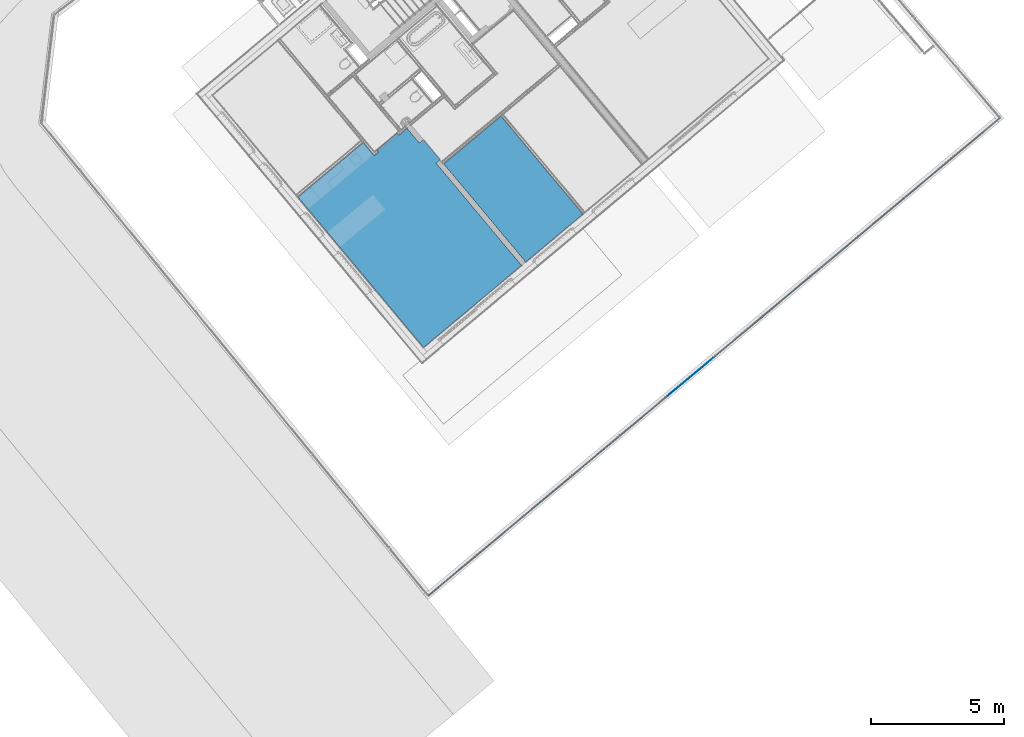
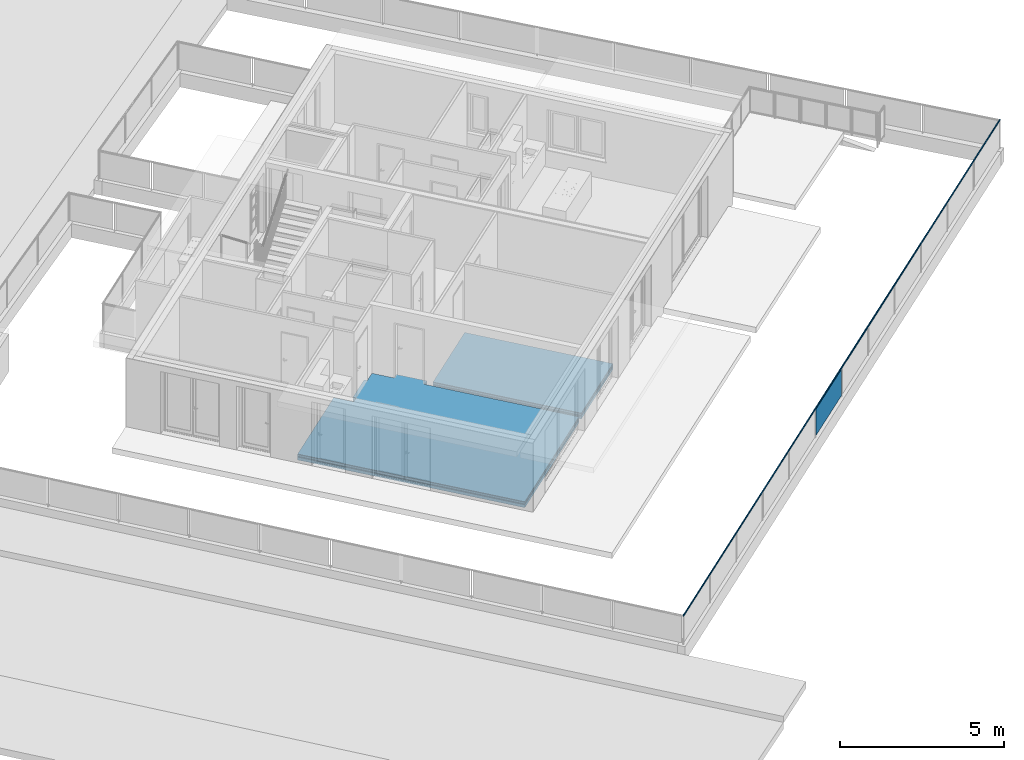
# One storey, part 24 of 75: 10 building element parts, 3 elements without a shape of their own.
"""IFC4 building model written with IfcOpenShell, lengths in metres."""

from ifc_helpers import new_model, entity, si_unit, converted_unit, derived_unit, direction, frame, origin_with_axes, place, context, subcontext, project, spatial, polygons, material, type_object, element, aggregate, save


model = new_model("IFC4")

# Units and contexts
model_context = context("Model", 3, precision=1e-05, world=origin_with_axes(), true_north=direction((0.0, 1.0)))
body_context = subcontext(model_context, "Body", "Model", "MODEL_VIEW")
ifc_project = project(units=[si_unit("LENGTHUNIT", "METRE"), si_unit("AREAUNIT", "SQUARE_METRE"), si_unit("VOLUMEUNIT", "CUBIC_METRE"), converted_unit("PLANEANGLEUNIT", "DEGREE", entity("IfcPlaneAngleMeasure", 0.0174532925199), si_unit("PLANEANGLEUNIT", "RADIAN"), dimensions=[0, 0, 0, 0, 0, 0, 0]), converted_unit("TIMEUNIT", "Year", entity("IfcTimeMeasure", 31556926.0), si_unit("TIMEUNIT", "SECOND"), dimensions=[0, 0, 1, 0, 0, 0, 0]), si_unit("MASSUNIT", "GRAM", prefix="KILO"), si_unit("THERMODYNAMICTEMPERATUREUNIT", "DEGREE_CELSIUS"), si_unit("LUMINOUSINTENSITYUNIT", "LUMEN"), si_unit("ENERGYUNIT", "JOULE", prefix="MEGA"), derived_unit("THERMALCONDUCTANCEUNIT", [(si_unit("POWERUNIT", "WATT"), 1), (si_unit("LENGTHUNIT", "METRE"), -1), (si_unit("THERMODYNAMICTEMPERATUREUNIT", "KELVIN"), -1)]), derived_unit("SPECIFICHEATCAPACITYUNIT", [(si_unit("ENERGYUNIT", "JOULE"), 1), (si_unit("MASSUNIT", "GRAM", prefix="KILO"), -1), (si_unit("THERMODYNAMICTEMPERATUREUNIT", "KELVIN"), -1)]), derived_unit("MASSDENSITYUNIT", [(si_unit("MASSUNIT", "GRAM", prefix="KILO"), 1), (si_unit("VOLUMEUNIT", "CUBIC_METRE"), -1)])], contexts=[model_context])

# Site, building, storey
site_placement = place(None, frame((-0.00153261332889, -0.00661245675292, 0.0), z_axis=(0.0, 0.0, 1.0), x_axis=(1.0, 0.0, 0.0)))
site = spatial("IfcSite", under=ifc_project, at=site_placement, Name="Gelände", CompositionType="ELEMENT")
building_placement = place(site_placement, origin_with_axes())
building = spatial("IfcBuilding", under=site, at=building_placement, Name="Gebäude", CompositionType="ELEMENT")
storey_placement = place(building_placement, frame((0.0, 0.0, -0.22), z_axis=(0.0, 0.0, 1.0), x_axis=(1.0, 0.0, 0.0)))
storey = spatial("IfcBuildingStorey", under=building, at=storey_placement, Name="EG", CompositionType="ELEMENT", Elevation=-0.22)

# Railing, building element parts
railing_type = type_object("IfcRailingType", Name="Geländerart", PredefinedType="NOTDEFINED")
railing_placement = place(storey_placement, frame((-12.1608341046, 23.557810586, 0.523948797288), z_axis=(0.0, 0.0, 1.0), x_axis=(1.0, 0.0, 0.0)))
railing = element("IfcRailing", 1, at=railing_placement, inside=storey, type_object=railing_type, Name="Geländer - 001", PredefinedType="NOTDEFINED")
ifc_material_1 = material(Name="Aluminium")
building_element_part_1_placement = place(railing_placement, origin_with_axes())
building_element_part_1 = element("IfcBuildingElementPart", 2, at=building_element_part_1_placement, material=ifc_material_1, Name="Aluminium", PredefinedType="NOTDEFINED", context=body_context, shape_type="Tessellation", body=[
    polygons([(12.1743936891, -23.4240304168, 1.07636363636), (12.1743622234, -23.4243631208, 1.07634109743), (33.6814073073, -5.45010254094, 1.07634109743), (33.6810736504, -5.45007498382, 1.07636363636), (12.1743936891, -23.4240304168, 1.07818181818), (12.1744019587, -23.4239429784, 1.07820551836), (12.1748432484, -23.4192769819, 1.0792391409), (12.1752909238, -23.4145434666, 1.07983921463), (12.1757415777, -23.4097784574, 1.08000117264), (12.1757501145, -23.4096881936, 1.08), (12.1757586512, -23.4095979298, 1.08000117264), (12.1762093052, -23.4048329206, 1.07983921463), (12.1766569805, -23.4000994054, 1.0792391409), (12.1770982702, -23.3954334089, 1.07820551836), (12.1771065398, -23.3953459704, 1.07818181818), (12.1771065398, -23.3953459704, 1.07636363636), (12.1771380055, -23.3950132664, 1.07634109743), (12.1772545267, -23.3937812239, 1.0761115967), (12.17736571, -23.3926056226, 1.07565956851), (12.1774681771, -23.3915221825, 1.07499874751), (12.1775588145, -23.3905638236, 1.0741492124), (12.1776348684, -23.3897596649, 1.07313677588), (12.1776940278, -23.3891341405, 1.07199220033), (12.1777344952, -23.3887062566, 1.07075026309), (12.177755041, -23.3884890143, 1.06944869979), (12.177755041, -23.3884890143, 1.06812705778), (12.1777344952, -23.3887062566, 1.06682549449), (12.1776940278, -23.3891341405, 1.06558355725), (12.1776348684, -23.3897596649, 1.06443898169), (12.1775588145, -23.3905638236, 1.06342654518), (12.1774681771, -23.3915221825, 1.06257701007), (12.17736571, -23.3926056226, 1.06191618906), (12.1772545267, -23.3937812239, 1.06146416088), (12.1771380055, -23.3950132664, 1.06123466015), (12.1771065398, -23.3953459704, 1.06121212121), (12.1771065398, -23.3953459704, 1.05818181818), (12.1770852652, -23.3955709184, 1.05810011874), (12.176986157, -23.3966188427, 1.05758389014), (12.1768965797, -23.3975659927, 1.05688326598), (12.1768192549, -23.3983835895, 1.05601953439), (12.1767565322, -23.3990467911, 1.05501893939), (12.1767103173, -23.3995354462, 1.05391188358), (12.1766820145, -23.3998347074, 1.05273200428), (12.1766724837, -23.3999354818, 1.05151515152), (12.1766820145, -23.3998347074, 1.05029829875), (12.1767103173, -23.3995354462, 1.04911841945), (12.1767565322, -23.3990467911, 1.04801136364), (12.1768192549, -23.3983835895, 1.04701076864), (12.1768965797, -23.3975659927, 1.04614703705), (12.176986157, -23.3966188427, 1.04544641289), (12.1770852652, -23.3955709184, 1.04493018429), (12.1771065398, -23.3953459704, 1.04484848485), (12.1771065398, -23.3953459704, 1.04), (12.1743936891, -23.4240304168, 1.04), (12.1743936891, -23.4240304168, 1.04484848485), (12.1744149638, -23.4238054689, 1.04493018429), (12.1745140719, -23.4227575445, 1.04544641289), (12.1746036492, -23.4218103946, 1.04614703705), (12.174680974, -23.4209927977, 1.04701076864), (12.1747436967, -23.4203295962, 1.04801136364), (12.1747899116, -23.419840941, 1.04911841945), (12.1748182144, -23.4195416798, 1.05029829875), (12.1748277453, -23.4194409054, 1.05151515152), (12.1748182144, -23.4195416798, 1.05273200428), (12.1747899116, -23.419840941, 1.05391188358), (12.1747436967, -23.4203295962, 1.05501893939), (12.174680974, -23.4209927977, 1.05601953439), (12.1746036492, -23.4218103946, 1.05688326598), (12.1745140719, -23.4227575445, 1.05758389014), (12.1744149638, -23.4238054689, 1.05810011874), (12.1743936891, -23.4240304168, 1.05818181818), (12.1743936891, -23.4240304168, 1.06121212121), (12.1743622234, -23.4243631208, 1.06123466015), (12.1742457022, -23.4255951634, 1.06146416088), (12.1741345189, -23.4267707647, 1.06191618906), (12.1740320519, -23.4278542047, 1.06257701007), (12.1739414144, -23.4288125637, 1.06342654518), (12.1738653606, -23.4296167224, 1.06443898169), (12.1738062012, -23.4302422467, 1.06558355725), (12.1737657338, -23.4306701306, 1.06682549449), (12.1737451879, -23.430887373, 1.06812705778), (12.1737451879, -23.430887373, 1.06944869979), (12.1737657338, -23.4306701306, 1.07075026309), (12.1738062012, -23.4302422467, 1.07199220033), (12.1738653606, -23.4296167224, 1.07313677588), (12.1739414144, -23.4288125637, 1.0741492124), (12.1740320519, -23.4278542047, 1.07499874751), (12.1741345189, -23.4267707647, 1.07565956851), (12.1742457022, -23.4255951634, 1.0761115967), (33.6826428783, -5.45020458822, 1.0761115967), (33.6838218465, -5.4503019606, 1.07565956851), (33.6849083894, -5.45039169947, 1.07499874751), (33.6858694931, -5.45047107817, 1.0741492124), (33.6866759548, -5.4505376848, 1.07313677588), (33.6873032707, -5.45058949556, 1.07199220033), (33.68773238, -5.45062493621, 1.07075026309), (33.6879502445, -5.4506429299, 1.06944869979), (33.6879502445, -5.4506429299, 1.06812705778), (33.68773238, -5.45062493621, 1.06682549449), (33.6873032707, -5.45058949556, 1.06558355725), (33.6866759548, -5.4505376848, 1.06443898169), (33.6858694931, -5.45047107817, 1.06342654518), (33.6849083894, -5.45039169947, 1.06257701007), (33.6838218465, -5.4503019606, 1.06191618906), (33.6826428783, -5.45020458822, 1.06146416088), (33.6814073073, -5.45010254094, 1.06123466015), (33.6810736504, -5.45007498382, 1.06121212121), (33.6810736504, -5.45007498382, 1.05818181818), (33.6808480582, -5.4500563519, 1.05810011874), (33.6797971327, -5.44996955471, 1.05758389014), (33.6788472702, -5.44989110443, 1.05688326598), (33.6780273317, -5.44982338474, 1.05601953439), (33.6773622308, -5.44976845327, 1.05501893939), (33.6768721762, -5.44972797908, 1.05391188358), (33.6765720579, -5.44970319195, 1.05273200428), (33.6764709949, -5.44969484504, 1.05151515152), (33.6765720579, -5.44970319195, 1.05029829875), (33.6768721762, -5.44972797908, 1.04911841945), (33.6773622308, -5.44976845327, 1.04801136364), (33.6780273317, -5.44982338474, 1.04701076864), (33.6788472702, -5.44989110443, 1.04614703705), (33.6797971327, -5.44996955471, 1.04544641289), (33.6808480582, -5.4500563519, 1.04493018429), (33.6810736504, -5.45007498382, 1.04484848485), (33.6810736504, -5.45007498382, 1.04), (33.6523070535, -5.4476991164, 1.04), (33.6523070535, -5.4476991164, 1.04484848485), (33.6525326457, -5.44771774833, 1.04493018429), (33.6535835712, -5.44780454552, 1.04544641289), (33.6545334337, -5.44788299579, 1.04614703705), (33.6553533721, -5.44795071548, 1.04701076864), (33.656018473, -5.44800564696, 1.04801136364), (33.6565085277, -5.44804612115, 1.04911841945), (33.656808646, -5.44807090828, 1.05029829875), (33.656909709, -5.44807925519, 1.05151515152), (33.656808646, -5.44807090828, 1.05273200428), (33.6565085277, -5.44804612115, 1.05391188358), (33.656018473, -5.44800564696, 1.05501893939), (33.6553533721, -5.44795071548, 1.05601953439), (33.6545334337, -5.44788299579, 1.05688326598), (33.6535835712, -5.44780454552, 1.05758389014), (33.6525326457, -5.44771774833, 1.05810011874), (33.6523070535, -5.4476991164, 1.05818181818), (33.6523070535, -5.4476991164, 1.06121212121), (33.6519733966, -5.44767155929, 1.06123466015), (33.6507378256, -5.44756951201, 1.06146416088), (33.6495588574, -5.44747213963, 1.06191618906), (33.6484723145, -5.44738240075, 1.06257701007), (33.6475112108, -5.44730302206, 1.06342654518), (33.6467047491, -5.44723641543, 1.06443898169), (33.6460774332, -5.44718460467, 1.06558355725), (33.6456483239, -5.44714916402, 1.06682549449), (33.6454304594, -5.44713117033, 1.06812705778), (33.6454304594, -5.44713117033, 1.06944869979), (33.6456483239, -5.44714916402, 1.07075026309), (33.6460774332, -5.44718460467, 1.07199220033), (33.6467047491, -5.44723641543, 1.07313677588), (33.6475112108, -5.44730302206, 1.0741492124), (33.6484723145, -5.44738240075, 1.07499874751), (33.6495588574, -5.44747213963, 1.07565956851), (33.6507378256, -5.44756951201, 1.0761115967), (33.6519733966, -5.44767155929, 1.07634109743), (33.6523070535, -5.4476991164, 1.07636363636), (33.6523070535, -5.4476991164, 1.07818181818), (33.6523947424, -5.44770635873, 1.07820551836), (33.657074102, -5.4480928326, 1.0792391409), (33.6618211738, -5.4484848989, 1.07983921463), (33.6665998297, -5.44887957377, 1.08000117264), (33.6666903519, -5.44888705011, 1.08), (33.6667808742, -5.44889452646, 1.08000117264), (33.6715595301, -5.44928920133, 1.07983921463), (33.6763066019, -5.44968126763, 1.0792391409), (33.6809859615, -5.45006774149, 1.07820551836), (33.6810736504, -5.45007498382, 1.07818181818)], [[[1, 2, 3, 4]], [[1, 5, 6, 7, 8, 9, 10, 11, 12, 13, 14, 15, 16, 17, 18, 19, 20, 21, 22, 23, 24, 25, 26, 27, 28, 29, 30, 31, 32, 33, 34, 35, 36, 37, 38, 39, 40, 41, 42, 43, 44, 45, 46, 47, 48, 49, 50, 51, 52, 53, 54, 55, 56, 57, 58, 59, 60, 61, 62, 63, 64, 65, 66, 67, 68, 69, 70, 71, 72, 73, 74, 75, 76, 77, 78, 79, 80, 81, 82, 83, 84, 85, 86, 87, 88, 89, 2]], [[2, 89, 90, 3]], [[4, 3, 90, 91, 92, 93, 94, 95, 96, 97, 98, 99, 100, 101, 102, 103, 104, 105, 106, 107, 108, 109, 110, 111, 112, 113, 114, 115, 116, 117, 118, 119, 120, 121, 122, 123, 124, 125, 126, 127, 128, 129, 130, 131, 132, 133, 134, 135, 136, 137, 138, 139, 140, 141, 142, 143, 144, 145, 146, 147, 148, 149, 150, 151, 152, 153, 154, 155, 156, 157, 158, 159, 160, 161, 162, 163, 164, 165, 166, 167, 168, 169, 170, 171, 172, 173, 174]], [[5, 1, 4, 174]], [[6, 5, 174, 173]], [[7, 6, 173, 172]], [[8, 7, 172, 171]], [[9, 8, 171, 170]], [[10, 9, 170, 169]], [[11, 10, 169, 168]], [[12, 11, 168, 167]], [[13, 12, 167, 166]], [[14, 13, 166, 165]], [[15, 14, 165, 164]], [[16, 15, 164, 163]], [[17, 16, 163, 162]], [[18, 17, 162, 161]], [[19, 18, 161, 160]], [[20, 19, 160, 159]], [[21, 20, 159, 158]], [[22, 21, 158, 157]], [[23, 22, 157, 156]], [[24, 23, 156, 155]], [[25, 24, 155, 154]], [[26, 25, 154, 153]], [[27, 26, 153, 152]], [[28, 27, 152, 151]], [[29, 28, 151, 150]], [[30, 29, 150, 149]], [[31, 30, 149, 148]], [[32, 31, 148, 147]], [[33, 32, 147, 146]], [[34, 33, 146, 145]], [[35, 34, 145, 144]], [[36, 35, 144, 143]], [[37, 36, 143, 142]], [[38, 37, 142, 141]], [[39, 38, 141, 140]], [[40, 39, 140, 139]], [[41, 40, 139, 138]], [[42, 41, 138, 137]], [[43, 42, 137, 136]], [[44, 43, 136, 135]], [[45, 44, 135, 134]], [[46, 45, 134, 133]], [[47, 46, 133, 132]], [[48, 47, 132, 131]], [[49, 48, 131, 130]], [[50, 49, 130, 129]], [[51, 50, 129, 128]], [[52, 51, 128, 127]], [[53, 52, 127, 126]], [[54, 53, 126, 125]], [[55, 54, 125, 124]], [[56, 55, 124, 123]], [[57, 56, 123, 122]], [[58, 57, 122, 121]], [[59, 58, 121, 120]], [[60, 59, 120, 119]], [[61, 60, 119, 118]], [[62, 61, 118, 117]], [[63, 62, 117, 116]], [[64, 63, 116, 115]], [[65, 64, 115, 114]], [[66, 65, 114, 113]], [[67, 66, 113, 112]], [[68, 67, 112, 111]], [[69, 68, 111, 110]], [[70, 69, 110, 109]], [[71, 70, 109, 108]], [[72, 71, 108, 107]], [[73, 72, 107, 106]], [[74, 73, 106, 105]], [[75, 74, 105, 104]], [[76, 75, 104, 103]], [[77, 76, 103, 102]], [[78, 77, 102, 101]], [[79, 78, 101, 100]], [[80, 79, 100, 99]], [[81, 80, 99, 98]], [[82, 81, 98, 97]], [[83, 82, 97, 96]], [[84, 83, 96, 95]], [[85, 84, 95, 94]], [[86, 85, 94, 93]], [[87, 86, 93, 92]], [[88, 87, 92, 91]], [[89, 88, 91, 90]]], closed=True),
])
ifc_material_2 = material(Name="Zaun")
building_element_part_2_placement = place(railing_placement, origin_with_axes())
building_element_part_2 = element("IfcBuildingElementPart", 3, at=building_element_part_2_placement, material=ifc_material_2, Name="Zaun", PredefinedType="NOTDEFINED", context=body_context, shape_type="Tessellation", body=[
    polygons([(22.8764418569, -14.4536781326, 0.05), (21.1622614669, -15.8862842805, 0.05), (21.1622614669, -15.8862842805, 1.03), (22.8764418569, -14.4536781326, 1.03), (21.1750869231, -15.9016305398, 0.05), (22.889267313, -14.4690243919, 0.05), (21.1750869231, -15.9016305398, 1.03), (22.889267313, -14.4690243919, 1.03)], [[[1, 2, 3, 4]], [[5, 2, 1, 6]], [[7, 3, 2, 5]], [[4, 3, 7, 8]], [[1, 4, 8, 6]], [[7, 5, 6, 8]]], closed=True),
])
aggregate(railing, [building_element_part_1, building_element_part_2])

# Covering, building element parts
covering_type = type_object("IfcCoveringType", Name="DE 01 Decke Wohnung/Wohnung Parkett 220", PredefinedType="NOTDEFINED")
covering_1_placement = place(storey_placement, frame((2.74397864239, 18.1786943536, 0.22), z_axis=(0.0, 0.0, 1.0), x_axis=(1.0, 0.0, 0.0)))
covering_1 = element("IfcCovering", 4, at=covering_1_placement, inside=storey, type_object=covering_type, Name="Decke-007", PredefinedType="NOTDEFINED")
ifc_material_3 = material(Name="Parkett")
building_element_part_3_placement = place(covering_1_placement, origin_with_axes())
building_element_part_3 = element("IfcBuildingElementPart", 5, at=building_element_part_3_placement, material=ifc_material_3, Name="Parkett", PredefinedType="NOTDEFINED", context=body_context, shape_type="Tessellation", body=[
    polygons([(-2.15304181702, -1.79907785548, -0.015), (-2.15304181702, -1.79907785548, 0.0), (0.0, 0.0, 0.0), (0.0, 0.0, -0.015), (0.929751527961, -5.48840289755, -0.015), (0.929751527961, -5.48840289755, 0.0), (3.08162172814, -3.68792291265, 0.0), (3.08162172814, -3.68792291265, -0.015)], [[[1, 2, 3, 4]], [[5, 6, 2, 1]], [[3, 2, 6, 7]], [[4, 3, 7, 8]], [[4, 8, 5, 1]], [[8, 7, 6, 5]]], closed=True),
])
ifc_material_4 = material(Name="Estrich")
building_element_part_4_placement = place(covering_1_placement, origin_with_axes())
building_element_part_4 = element("IfcBuildingElementPart", 6, at=building_element_part_4_placement, material=ifc_material_4, Name="Estrich", PredefinedType="NOTDEFINED", context=body_context, shape_type="Tessellation", body=[
    polygons([(-2.15304181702, -1.79907785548, -0.08), (-2.15304181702, -1.79907785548, -0.015), (0.0, 0.0, -0.015), (0.0, 0.0, -0.08), (0.929751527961, -5.48840289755, -0.08), (0.929751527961, -5.48840289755, -0.015), (3.08162172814, -3.68792291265, -0.015), (3.08162172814, -3.68792291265, -0.08)], [[[1, 2, 3, 4]], [[5, 6, 2, 1]], [[3, 2, 6, 7]], [[4, 3, 7, 8]], [[4, 8, 5, 1]], [[8, 7, 6, 5]]], closed=True),
])
ifc_material_5 = material(Name="Trittschalldämmung")
building_element_part_5_placement = place(covering_1_placement, origin_with_axes())
building_element_part_5 = element("IfcBuildingElementPart", 7, at=building_element_part_5_placement, material=ifc_material_5, Name="Trittschalldämmung", PredefinedType="NOTDEFINED", context=body_context, shape_type="Tessellation", body=[
    polygons([(-2.15304181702, -1.79907785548, -0.11), (-2.15304181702, -1.79907785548, -0.08), (0.0, 0.0, -0.08), (0.0, 0.0, -0.11), (0.929751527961, -5.48840289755, -0.11), (0.929751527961, -5.48840289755, -0.08), (3.08162172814, -3.68792291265, -0.08), (3.08162172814, -3.68792291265, -0.11)], [[[1, 2, 3, 4]], [[5, 6, 2, 1]], [[3, 2, 6, 7]], [[4, 3, 7, 8]], [[4, 8, 5, 1]], [[8, 7, 6, 5]]], closed=True),
])
ifc_material_6 = material(Name="Schüttung")
building_element_part_6_placement = place(covering_1_placement, origin_with_axes())
building_element_part_6 = element("IfcBuildingElementPart", 8, at=building_element_part_6_placement, material=ifc_material_6, Name="Schüttung", PredefinedType="NOTDEFINED", context=body_context, shape_type="Tessellation", body=[
    polygons([(0.0, 0.0, -0.22), (-2.15304181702, -1.79907785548, -0.22), (-2.15304181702, -1.79907785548, -0.11), (0.0, 0.0, -0.11), (3.08162172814, -3.68792291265, -0.22), (0.929751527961, -5.48840289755, -0.22), (0.929751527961, -5.48840289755, -0.11), (3.08162172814, -3.68792291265, -0.11)], [[[1, 2, 3, 4]], [[1, 5, 6, 2]], [[2, 6, 7, 3]], [[4, 3, 7, 8]], [[5, 1, 4, 8]], [[6, 5, 8, 7]]], closed=True),
])
aggregate(covering_1, [building_element_part_3, building_element_part_4, building_element_part_5, building_element_part_6])

covering_2_placement = place(storey_placement, frame((-4.88832532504, 15.131985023, 0.22), z_axis=(0.0, 0.0, 1.0), x_axis=(1.0, 0.0, 0.0)))
covering_2 = element("IfcCovering", 9, at=covering_2_placement, inside=storey, type_object=covering_type, Name="Decke-008", PredefinedType="NOTDEFINED")
building_element_part_7_placement = place(covering_2_placement, origin_with_axes())
building_element_part_7 = element("IfcBuildingElementPart", 10, at=building_element_part_7_placement, material=ifc_material_3, Name="Parkett", PredefinedType="NOTDEFINED", context=body_context, shape_type="Tessellation", body=[
    polygons([(0.0, 0.0, -0.015), (4.72379239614, -5.65318648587, -0.015), (4.72379239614, -5.65318648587, 0.0), (0.0, 0.0, 0.0), (2.455765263, 2.05203294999, -0.015), (2.87252503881, 1.55327687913, -0.015), (3.03331536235, 1.68763299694, -0.015), (2.96598832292, 1.76820639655, -0.015), (3.72568057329, 2.40300385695, -0.015), (3.79300748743, 2.32243033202, -0.015), (4.10363950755, 2.58199386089, -0.015), (4.56187738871, 2.03359883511, -0.015), (4.7153506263, 2.16184073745, -0.015), (5.35014796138, 1.4021484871, -0.015), (5.19667484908, 1.27390658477, -0.015), (8.40866584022, -2.57003544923, -0.015), (8.40866584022, -2.57003544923, 0.0), (2.455765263, 2.05203294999, 0.0), (5.19667484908, 1.27390658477, 0.0), (5.35014796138, 1.4021484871, 0.0), (4.7153506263, 2.16184073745, 0.0), (4.56187738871, 2.03359883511, 0.0), (4.10363950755, 2.58199386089, 0.0), (3.79300748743, 2.32243033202, 0.0), (3.72568057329, 2.40300385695, 0.0), (2.96598832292, 1.76820639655, 0.0), (3.03331536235, 1.68763299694, 0.0), (2.87252503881, 1.55327687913, 0.0)], [[[1, 2, 3, 4]], [[2, 1, 5, 6, 7, 8, 9, 10, 11, 12, 13, 14, 15, 16]], [[2, 16, 17, 3]], [[18, 4, 3, 17, 19, 20, 21, 22, 23, 24, 25, 26, 27, 28]], [[5, 1, 4, 18]], [[6, 5, 18, 28]], [[7, 6, 28, 27]], [[8, 7, 27, 26]], [[9, 8, 26, 25]], [[10, 9, 25, 24]], [[11, 10, 24, 23]], [[12, 11, 23, 22]], [[13, 12, 22, 21]], [[14, 13, 21, 20]], [[15, 14, 20, 19]], [[16, 15, 19, 17]]], closed=True),
])
building_element_part_8_placement = place(covering_2_placement, origin_with_axes())
building_element_part_8 = element("IfcBuildingElementPart", 11, at=building_element_part_8_placement, material=ifc_material_4, Name="Estrich", PredefinedType="NOTDEFINED", context=body_context, shape_type="Tessellation", body=[
    polygons([(0.0, 0.0, -0.08), (4.72379239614, -5.65318648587, -0.08), (4.72379239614, -5.65318648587, -0.015), (0.0, 0.0, -0.015), (2.455765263, 2.05203294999, -0.08), (2.87252503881, 1.55327687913, -0.08), (3.03331536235, 1.68763299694, -0.08), (2.96598832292, 1.76820639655, -0.08), (3.72568057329, 2.40300385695, -0.08), (3.79300748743, 2.32243033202, -0.08), (4.10363950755, 2.58199386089, -0.08), (4.56187738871, 2.03359883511, -0.08), (4.7153506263, 2.16184073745, -0.08), (5.35014796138, 1.4021484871, -0.08), (5.19667484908, 1.27390658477, -0.08), (8.40866584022, -2.57003544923, -0.08), (8.40866584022, -2.57003544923, -0.015), (2.455765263, 2.05203294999, -0.015), (5.19667484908, 1.27390658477, -0.015), (5.35014796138, 1.4021484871, -0.015), (4.7153506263, 2.16184073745, -0.015), (4.56187738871, 2.03359883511, -0.015), (4.10363950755, 2.58199386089, -0.015), (3.79300748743, 2.32243033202, -0.015), (3.72568057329, 2.40300385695, -0.015), (2.96598832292, 1.76820639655, -0.015), (3.03331536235, 1.68763299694, -0.015), (2.87252503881, 1.55327687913, -0.015)], [[[1, 2, 3, 4]], [[2, 1, 5, 6, 7, 8, 9, 10, 11, 12, 13, 14, 15, 16]], [[2, 16, 17, 3]], [[18, 4, 3, 17, 19, 20, 21, 22, 23, 24, 25, 26, 27, 28]], [[5, 1, 4, 18]], [[6, 5, 18, 28]], [[7, 6, 28, 27]], [[8, 7, 27, 26]], [[9, 8, 26, 25]], [[10, 9, 25, 24]], [[11, 10, 24, 23]], [[12, 11, 23, 22]], [[13, 12, 22, 21]], [[14, 13, 21, 20]], [[15, 14, 20, 19]], [[16, 15, 19, 17]]], closed=True),
])
building_element_part_9_placement = place(covering_2_placement, origin_with_axes())
building_element_part_9 = element("IfcBuildingElementPart", 12, at=building_element_part_9_placement, material=ifc_material_5, Name="Trittschalldämmung", PredefinedType="NOTDEFINED", context=body_context, shape_type="Tessellation", body=[
    polygons([(0.0, 0.0, -0.11), (4.72379239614, -5.65318648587, -0.11), (4.72379239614, -5.65318648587, -0.08), (0.0, 0.0, -0.08), (2.455765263, 2.05203294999, -0.11), (2.87252503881, 1.55327687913, -0.11), (3.03331536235, 1.68763299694, -0.11), (2.96598832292, 1.76820639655, -0.11), (3.72568057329, 2.40300385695, -0.11), (3.79300748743, 2.32243033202, -0.11), (4.10363950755, 2.58199386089, -0.11), (4.56187738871, 2.03359883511, -0.11), (4.7153506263, 2.16184073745, -0.11), (5.35014796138, 1.4021484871, -0.11), (5.19667484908, 1.27390658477, -0.11), (8.40866584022, -2.57003544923, -0.11), (8.40866584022, -2.57003544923, -0.08), (2.455765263, 2.05203294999, -0.08), (5.19667484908, 1.27390658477, -0.08), (5.35014796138, 1.4021484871, -0.08), (4.7153506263, 2.16184073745, -0.08), (4.56187738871, 2.03359883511, -0.08), (4.10363950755, 2.58199386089, -0.08), (3.79300748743, 2.32243033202, -0.08), (3.72568057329, 2.40300385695, -0.08), (2.96598832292, 1.76820639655, -0.08), (3.03331536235, 1.68763299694, -0.08), (2.87252503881, 1.55327687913, -0.08)], [[[1, 2, 3, 4]], [[2, 1, 5, 6, 7, 8, 9, 10, 11, 12, 13, 14, 15, 16]], [[2, 16, 17, 3]], [[18, 4, 3, 17, 19, 20, 21, 22, 23, 24, 25, 26, 27, 28]], [[5, 1, 4, 18]], [[6, 5, 18, 28]], [[7, 6, 28, 27]], [[8, 7, 27, 26]], [[9, 8, 26, 25]], [[10, 9, 25, 24]], [[11, 10, 24, 23]], [[12, 11, 23, 22]], [[13, 12, 22, 21]], [[14, 13, 21, 20]], [[15, 14, 20, 19]], [[16, 15, 19, 17]]], closed=True),
])
building_element_part_10_placement = place(covering_2_placement, origin_with_axes())
building_element_part_10 = element("IfcBuildingElementPart", 13, at=building_element_part_10_placement, material=ifc_material_6, Name="Schüttung", PredefinedType="NOTDEFINED", context=body_context, shape_type="Tessellation", body=[
    polygons([(0.0, 0.0, -0.11), (0.0, 0.0, -0.22), (4.72379239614, -5.65318648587, -0.22), (4.72379239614, -5.65318648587, -0.11), (2.455765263, 2.05203294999, -0.11), (2.455765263, 2.05203294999, -0.22), (2.87252503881, 1.55327687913, -0.22), (3.03331536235, 1.68763299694, -0.22), (2.96598832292, 1.76820639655, -0.22), (3.72568057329, 2.40300385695, -0.22), (3.79300748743, 2.32243033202, -0.22), (4.10363950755, 2.58199386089, -0.22), (4.56187738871, 2.03359883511, -0.22), (4.7153506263, 2.16184073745, -0.22), (5.35014796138, 1.4021484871, -0.22), (5.19667484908, 1.27390658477, -0.22), (8.40866584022, -2.57003544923, -0.22), (8.40866584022, -2.57003544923, -0.11), (5.19667484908, 1.27390658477, -0.11), (5.35014796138, 1.4021484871, -0.11), (4.7153506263, 2.16184073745, -0.11), (4.56187738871, 2.03359883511, -0.11), (4.10363950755, 2.58199386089, -0.11), (3.79300748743, 2.32243033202, -0.11), (3.72568057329, 2.40300385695, -0.11), (2.96598832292, 1.76820639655, -0.11), (3.03331536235, 1.68763299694, -0.11), (2.87252503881, 1.55327687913, -0.11)], [[[1, 2, 3, 4]], [[5, 6, 2, 1]], [[3, 2, 6, 7, 8, 9, 10, 11, 12, 13, 14, 15, 16, 17]], [[4, 3, 17, 18]], [[5, 1, 4, 18, 19, 20, 21, 22, 23, 24, 25, 26, 27, 28]], [[28, 7, 6, 5]], [[27, 8, 7, 28]], [[26, 9, 8, 27]], [[25, 10, 9, 26]], [[24, 11, 10, 25]], [[23, 12, 11, 24]], [[22, 13, 12, 23]], [[21, 14, 13, 22]], [[20, 15, 14, 21]], [[19, 16, 15, 20]], [[18, 17, 16, 19]]], closed=True),
])
aggregate(covering_2, [building_element_part_7, building_element_part_8, building_element_part_9, building_element_part_10])

save(model, "model.ifc")
